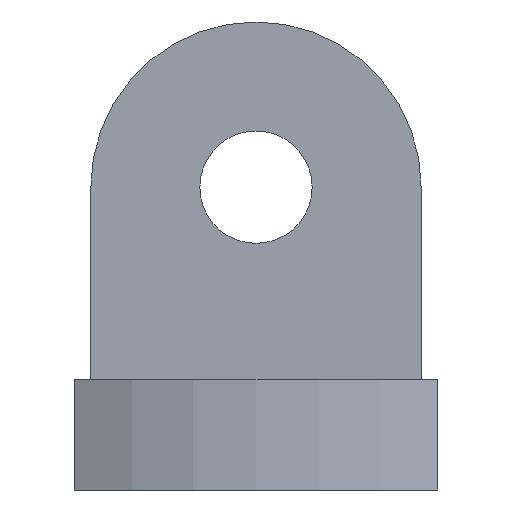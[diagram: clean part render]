
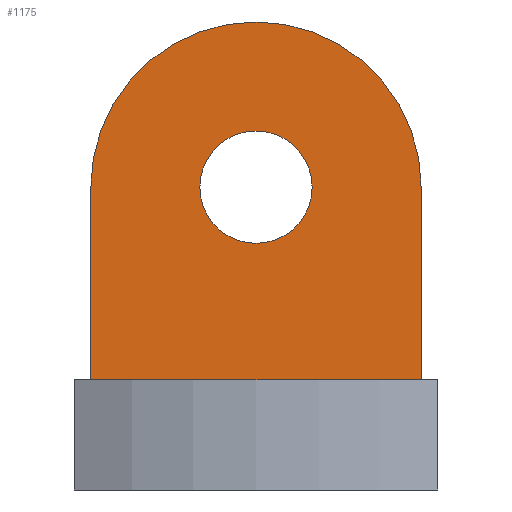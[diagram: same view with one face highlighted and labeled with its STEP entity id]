
A CAD part, left-side view. The second image highlights one B-rep face of the part: STEP entity #1175.
In plain terms, the highlighted planar face has unit normal (-1, 0, 0).
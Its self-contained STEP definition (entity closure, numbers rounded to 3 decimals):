
#100 = PLANE('',#101);
#101 = AXIS2_PLACEMENT_3D('',#102,#103,#104);
#102 = CARTESIAN_POINT('',(0.,0.,15.));
#103 = DIRECTION('',(0.,0.,1.));
#104 = DIRECTION('',(1.,0.,-0.));
#313 = VERTEX_POINT('',#314);
#314 = CARTESIAN_POINT('',(-4.8,-3.,15.));
#330 = PLANE('',#331);
#331 = AXIS2_PLACEMENT_3D('',#332,#333,#334);
#332 = CARTESIAN_POINT('',(-4.8,-3.,18.5));
#333 = DIRECTION('',(-0.,1.,0.));
#334 = DIRECTION('',(0.,0.,-1.));
#342 = EDGE_CURVE('',#313,#343,#345,.T.);
#343 = VERTEX_POINT('',#344);
#344 = CARTESIAN_POINT('',(-4.8,3.,15.));
#345 = SURFACE_CURVE('',#346,(#350,#357),.PCURVE_S1.);
#346 = LINE('',#347,#348);
#347 = CARTESIAN_POINT('',(-4.8,-3.,15.));
#348 = VECTOR('',#349,1.);
#349 = DIRECTION('',(0.,1.,0.));
#350 = PCURVE('',#100,#351);
#351 = DEFINITIONAL_REPRESENTATION('',(#352),#356);
#352 = LINE('',#353,#354);
#353 = CARTESIAN_POINT('',(-4.8,-3.));
#354 = VECTOR('',#355,1.);
#355 = DIRECTION('',(0.,1.));
#356 = ( GEOMETRIC_REPRESENTATION_CONTEXT(2) 
PARAMETRIC_REPRESENTATION_CONTEXT() REPRESENTATION_CONTEXT('2D SPACE',''
  ) );
#357 = PCURVE('',#358,#363);
#358 = PLANE('',#359);
#359 = AXIS2_PLACEMENT_3D('',#360,#361,#362);
#360 = CARTESIAN_POINT('',(-4.8,0.,16.75));
#361 = DIRECTION('',(1.,0.,0.));
#362 = DIRECTION('',(-0.,0.,1.));
#363 = DEFINITIONAL_REPRESENTATION('',(#364),#368);
#364 = LINE('',#365,#366);
#365 = CARTESIAN_POINT('',(-1.75,3.));
#366 = VECTOR('',#367,1.);
#367 = DIRECTION('',(0.,-1.));
#368 = ( GEOMETRIC_REPRESENTATION_CONTEXT(2) 
PARAMETRIC_REPRESENTATION_CONTEXT() REPRESENTATION_CONTEXT('2D SPACE',''
  ) );
#386 = PLANE('',#387);
#387 = AXIS2_PLACEMENT_3D('',#388,#389,#390);
#388 = CARTESIAN_POINT('',(-4.8,3.,15.));
#389 = DIRECTION('',(0.,-1.,0.));
#390 = DIRECTION('',(0.,0.,1.));
#981 = CYLINDRICAL_SURFACE('',#982,3.);
#982 = AXIS2_PLACEMENT_3D('',#983,#984,#985);
#983 = CARTESIAN_POINT('',(-4.8,0.,18.5));
#984 = DIRECTION('',(-1.,-0.,-0.));
#985 = DIRECTION('',(0.,1.,0.));
#1016 = CYLINDRICAL_SURFACE('',#1017,1.02);
#1017 = AXIS2_PLACEMENT_3D('',#1018,#1019,#1020);
#1018 = CARTESIAN_POINT('',(-10.,0.,18.5));
#1019 = DIRECTION('',(-1.,-0.,-0.));
#1020 = DIRECTION('',(0.,1.,0.));
#1031 = EDGE_CURVE('',#1032,#1032,#1034,.T.);
#1032 = VERTEX_POINT('',#1033);
#1033 = CARTESIAN_POINT('',(-4.8,1.02,18.5));
#1034 = SURFACE_CURVE('',#1035,(#1040,#1047),.PCURVE_S1.);
#1035 = CIRCLE('',#1036,1.02);
#1036 = AXIS2_PLACEMENT_3D('',#1037,#1038,#1039);
#1037 = CARTESIAN_POINT('',(-4.8,0.,18.5));
#1038 = DIRECTION('',(1.,0.,0.));
#1039 = DIRECTION('',(-0.,1.,0.));
#1040 = PCURVE('',#1016,#1041);
#1041 = DEFINITIONAL_REPRESENTATION('',(#1042),#1046);
#1042 = LINE('',#1043,#1044);
#1043 = CARTESIAN_POINT('',(-0.,-5.2));
#1044 = VECTOR('',#1045,1.);
#1045 = DIRECTION('',(-1.,-0.));
#1046 = ( GEOMETRIC_REPRESENTATION_CONTEXT(2) 
PARAMETRIC_REPRESENTATION_CONTEXT() REPRESENTATION_CONTEXT('2D SPACE',''
  ) );
#1047 = PCURVE('',#358,#1048);
#1048 = DEFINITIONAL_REPRESENTATION('',(#1049),#1053);
#1049 = CIRCLE('',#1050,1.02);
#1050 = AXIS2_PLACEMENT_2D('',#1051,#1052);
#1051 = CARTESIAN_POINT('',(1.75,0.));
#1052 = DIRECTION('',(0.,-1.));
#1053 = ( GEOMETRIC_REPRESENTATION_CONTEXT(2) 
PARAMETRIC_REPRESENTATION_CONTEXT() REPRESENTATION_CONTEXT('2D SPACE',''
  ) );
#1081 = EDGE_CURVE('',#1082,#1084,#1086,.T.);
#1082 = VERTEX_POINT('',#1083);
#1083 = CARTESIAN_POINT('',(-4.8,3.,18.5));
#1084 = VERTEX_POINT('',#1085);
#1085 = CARTESIAN_POINT('',(-4.8,-3.,18.5));
#1086 = SURFACE_CURVE('',#1087,(#1092,#1099),.PCURVE_S1.);
#1087 = CIRCLE('',#1088,3.);
#1088 = AXIS2_PLACEMENT_3D('',#1089,#1090,#1091);
#1089 = CARTESIAN_POINT('',(-4.8,0.,18.5));
#1090 = DIRECTION('',(1.,0.,0.));
#1091 = DIRECTION('',(0.,1.,0.));
#1092 = PCURVE('',#981,#1093);
#1093 = DEFINITIONAL_REPRESENTATION('',(#1094),#1098);
#1094 = LINE('',#1095,#1096);
#1095 = CARTESIAN_POINT('',(-0.,0.));
#1096 = VECTOR('',#1097,1.);
#1097 = DIRECTION('',(-1.,0.));
#1098 = ( GEOMETRIC_REPRESENTATION_CONTEXT(2) 
PARAMETRIC_REPRESENTATION_CONTEXT() REPRESENTATION_CONTEXT('2D SPACE',''
  ) );
#1099 = PCURVE('',#358,#1100);
#1100 = DEFINITIONAL_REPRESENTATION('',(#1101),#1105);
#1101 = CIRCLE('',#1102,3.);
#1102 = AXIS2_PLACEMENT_2D('',#1103,#1104);
#1103 = CARTESIAN_POINT('',(1.75,0.));
#1104 = DIRECTION('',(0.,-1.));
#1105 = ( GEOMETRIC_REPRESENTATION_CONTEXT(2) 
PARAMETRIC_REPRESENTATION_CONTEXT() REPRESENTATION_CONTEXT('2D SPACE',''
  ) );
#1155 = EDGE_CURVE('',#343,#1082,#1156,.T.);
#1156 = SURFACE_CURVE('',#1157,(#1161,#1168),.PCURVE_S1.);
#1157 = LINE('',#1158,#1159);
#1158 = CARTESIAN_POINT('',(-4.8,3.,15.));
#1159 = VECTOR('',#1160,1.);
#1160 = DIRECTION('',(0.,0.,1.));
#1161 = PCURVE('',#386,#1162);
#1162 = DEFINITIONAL_REPRESENTATION('',(#1163),#1167);
#1163 = LINE('',#1164,#1165);
#1164 = CARTESIAN_POINT('',(0.,0.));
#1165 = VECTOR('',#1166,1.);
#1166 = DIRECTION('',(1.,0.));
#1167 = ( GEOMETRIC_REPRESENTATION_CONTEXT(2) 
PARAMETRIC_REPRESENTATION_CONTEXT() REPRESENTATION_CONTEXT('2D SPACE',''
  ) );
#1168 = PCURVE('',#358,#1169);
#1169 = DEFINITIONAL_REPRESENTATION('',(#1170),#1174);
#1170 = LINE('',#1171,#1172);
#1171 = CARTESIAN_POINT('',(-1.75,-3.));
#1172 = VECTOR('',#1173,1.);
#1173 = DIRECTION('',(1.,0.));
#1174 = ( GEOMETRIC_REPRESENTATION_CONTEXT(2) 
PARAMETRIC_REPRESENTATION_CONTEXT() REPRESENTATION_CONTEXT('2D SPACE',''
  ) );
#1175 = ADVANCED_FACE('',(#1176,#1202),#358,.F.);
#1176 = FACE_BOUND('',#1177,.F.);
#1177 = EDGE_LOOP('',(#1178,#1199,#1200,#1201));
#1178 = ORIENTED_EDGE('',*,*,#1179,.T.);
#1179 = EDGE_CURVE('',#1084,#313,#1180,.T.);
#1180 = SURFACE_CURVE('',#1181,(#1185,#1192),.PCURVE_S1.);
#1181 = LINE('',#1182,#1183);
#1182 = CARTESIAN_POINT('',(-4.8,-3.,18.5));
#1183 = VECTOR('',#1184,1.);
#1184 = DIRECTION('',(0.,0.,-1.));
#1185 = PCURVE('',#358,#1186);
#1186 = DEFINITIONAL_REPRESENTATION('',(#1187),#1191);
#1187 = LINE('',#1188,#1189);
#1188 = CARTESIAN_POINT('',(1.75,3.));
#1189 = VECTOR('',#1190,1.);
#1190 = DIRECTION('',(-1.,0.));
#1191 = ( GEOMETRIC_REPRESENTATION_CONTEXT(2) 
PARAMETRIC_REPRESENTATION_CONTEXT() REPRESENTATION_CONTEXT('2D SPACE',''
  ) );
#1192 = PCURVE('',#330,#1193);
#1193 = DEFINITIONAL_REPRESENTATION('',(#1194),#1198);
#1194 = LINE('',#1195,#1196);
#1195 = CARTESIAN_POINT('',(0.,0.));
#1196 = VECTOR('',#1197,1.);
#1197 = DIRECTION('',(1.,0.));
#1198 = ( GEOMETRIC_REPRESENTATION_CONTEXT(2) 
PARAMETRIC_REPRESENTATION_CONTEXT() REPRESENTATION_CONTEXT('2D SPACE',''
  ) );
#1199 = ORIENTED_EDGE('',*,*,#342,.T.);
#1200 = ORIENTED_EDGE('',*,*,#1155,.T.);
#1201 = ORIENTED_EDGE('',*,*,#1081,.T.);
#1202 = FACE_BOUND('',#1203,.F.);
#1203 = EDGE_LOOP('',(#1204));
#1204 = ORIENTED_EDGE('',*,*,#1031,.F.);
